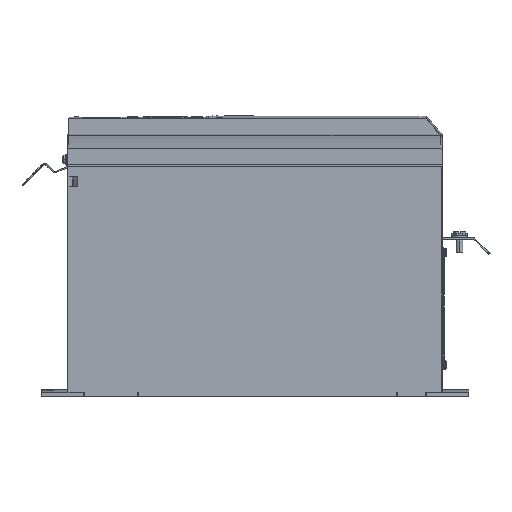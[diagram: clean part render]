
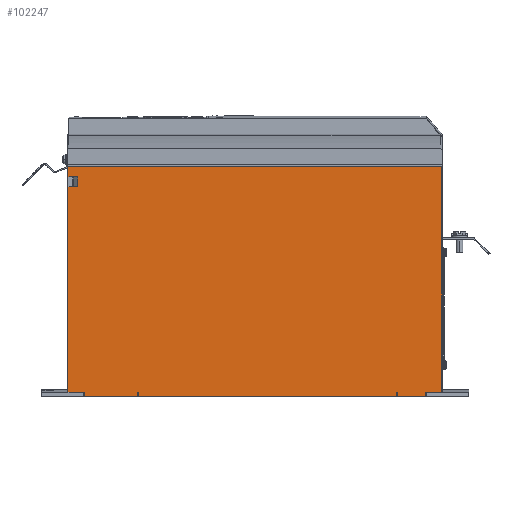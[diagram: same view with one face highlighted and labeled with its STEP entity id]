
A CAD part, left-side view. The second image highlights one B-rep face of the part: STEP entity #102247.
In plain terms, the highlighted planar face has unit normal (-1, 0, 0).
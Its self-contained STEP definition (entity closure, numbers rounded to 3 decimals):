
#3283=DIRECTION('',(0.,0.,1.));
#3284=VECTOR('',#3283,9.7);
#3285=CARTESIAN_POINT('',(-82.5,175.,205.2));
#3286=LINE('',#3285,#3284);
#3311=DIRECTION('',(0.,0.,1.));
#3312=VECTOR('',#3311,192.432);
#3313=CARTESIAN_POINT('',(-82.5,175.,3.768));
#3314=LINE('',#3313,#3312);
#30930=DIRECTION('',(0.,0.,-1.));
#30931=VECTOR('',#30930,211.132);
#30932=CARTESIAN_POINT('',(-82.5,-174.5,214.9));
#30933=LINE('',#30932,#30931);
#30937=DIRECTION('',(0.,1.,0.));
#30938=VECTOR('',#30937,14.95);
#30939=CARTESIAN_POINT('',(-82.5,-174.5,3.768));
#30940=LINE('',#30939,#30938);
#30944=DIRECTION('',(0.,0.,1.));
#30945=VECTOR('',#30944,3.768);
#30946=CARTESIAN_POINT('',(-82.5,-132.589,0.));
#30947=LINE('',#30946,#30945);
#30951=DIRECTION('',(0.,1.,0.));
#30952=VECTOR('',#30951,0.5);
#30953=CARTESIAN_POINT('',(-82.5,-132.589,3.768));
#30954=LINE('',#30953,#30952);
#30958=DIRECTION('',(0.,0.,-1.));
#30959=VECTOR('',#30958,3.775);
#30960=CARTESIAN_POINT('',(-82.5,-132.089,3.768));
#30961=LINE('',#30960,#30959);
#30965=DIRECTION('',(0.,1.,0.));
#30966=VECTOR('',#30965,241.178);
#30967=CARTESIAN_POINT('',(-82.5,-132.089,-0.007));
#30968=LINE('',#30967,#30966);
#30972=DIRECTION('',(0.,0.,1.));
#30973=VECTOR('',#30972,3.775);
#30974=CARTESIAN_POINT('',(-82.5,109.089,-0.007));
#30975=LINE('',#30974,#30973);
#30979=DIRECTION('',(0.,1.,0.));
#30980=VECTOR('',#30979,0.5);
#30981=CARTESIAN_POINT('',(-82.5,109.089,3.768));
#30982=LINE('',#30981,#30980);
#30986=DIRECTION('',(0.,0.,1.));
#30987=VECTOR('',#30986,3.768);
#30988=CARTESIAN_POINT('',(-82.5,109.589,0.));
#30989=LINE('',#30988,#30987);
#30993=DIRECTION('',(0.,1.,0.));
#30994=VECTOR('',#30993,15.844);
#30995=CARTESIAN_POINT('',(-82.5,159.156,3.768));
#30996=LINE('',#30995,#30994);
#31000=DIRECTION('',(0.,-1.,0.));
#31001=VECTOR('',#31000,9.);
#31002=CARTESIAN_POINT('',(-82.5,175.,196.2));
#31003=LINE('',#31002,#31001);
#31007=DIRECTION('',(0.,0.,1.));
#31008=VECTOR('',#31007,9.);
#31009=CARTESIAN_POINT('',(-82.5,166.,196.2));
#31010=LINE('',#31009,#31008);
#31014=DIRECTION('',(0.,-1.,0.));
#31015=VECTOR('',#31014,9.);
#31016=CARTESIAN_POINT('',(-82.5,175.,205.2));
#31017=LINE('',#31016,#31015);
#31021=DIRECTION('',(0.,1.,0.));
#31022=VECTOR('',#31021,349.5);
#31023=CARTESIAN_POINT('',(-82.5,-174.5,214.9));
#31024=LINE('',#31023,#31022);
#33354=DIRECTION('',(0.,-1.,0.));
#33355=VECTOR('',#33354,26.961);
#33356=CARTESIAN_POINT('',(-82.5,-132.589,0.));
#33357=LINE('',#33356,#33355);
#33404=DIRECTION('',(0.,0.,1.));
#33405=VECTOR('',#33404,3.768);
#33406=CARTESIAN_POINT('',(-82.5,-159.55,0.));
#33407=LINE('',#33406,#33405);
#33523=DIRECTION('',(0.,0.,1.));
#33524=VECTOR('',#33523,3.768);
#33525=CARTESIAN_POINT('',(-82.5,159.156,0.));
#33526=LINE('',#33525,#33524);
#33566=DIRECTION('',(0.,-1.,0.));
#33567=VECTOR('',#33566,49.567);
#33568=CARTESIAN_POINT('',(-82.5,159.156,0.));
#33569=LINE('',#33568,#33567);
#57094=CARTESIAN_POINT('',(-82.5,-174.5,214.9));
#57095=CARTESIAN_POINT('',(-82.5,-174.5,3.768));
#57096=VERTEX_POINT('',#57094);
#57097=VERTEX_POINT('',#57095);
#58738=CARTESIAN_POINT('',(-82.5,175.,3.768));
#58739=VERTEX_POINT('',#58738);
#58796=CARTESIAN_POINT('',(-82.5,-132.089,-0.007));
#58797=CARTESIAN_POINT('',(-82.5,109.089,-0.007));
#58798=VERTEX_POINT('',#58796);
#58799=VERTEX_POINT('',#58797);
#58805=CARTESIAN_POINT('',(-82.5,109.089,3.768));
#58807=VERTEX_POINT('',#58805);
#58809=CARTESIAN_POINT('',(-82.5,-132.089,3.768));
#58811=VERTEX_POINT('',#58809);
#58818=CARTESIAN_POINT('',(-82.5,-132.589,0.));
#58819=VERTEX_POINT('',#58818);
#58820=CARTESIAN_POINT('',(-82.5,-159.55,0.));
#58821=VERTEX_POINT('',#58820);
#58844=CARTESIAN_POINT('',(-82.5,-132.589,3.768));
#58845=VERTEX_POINT('',#58844);
#58846=CARTESIAN_POINT('',(-82.5,-159.55,3.768));
#58848=VERTEX_POINT('',#58846);
#58898=CARTESIAN_POINT('',(-82.5,109.589,0.));
#58899=VERTEX_POINT('',#58898);
#58900=CARTESIAN_POINT('',(-82.5,159.156,0.));
#58901=VERTEX_POINT('',#58900);
#58924=CARTESIAN_POINT('',(-82.5,109.589,3.768));
#58925=VERTEX_POINT('',#58924);
#58926=CARTESIAN_POINT('',(-82.5,159.156,3.768));
#58928=VERTEX_POINT('',#58926);
#58942=CARTESIAN_POINT('',(-82.5,175.,214.9));
#58943=VERTEX_POINT('',#58942);
#60023=CARTESIAN_POINT('',(-82.5,175.,196.2));
#60025=VERTEX_POINT('',#60023);
#60027=CARTESIAN_POINT('',(-82.5,175.,205.2));
#60029=VERTEX_POINT('',#60027);
#60031=CARTESIAN_POINT('',(-82.5,166.,196.2));
#60032=VERTEX_POINT('',#60031);
#60033=CARTESIAN_POINT('',(-82.5,166.,205.2));
#60034=VERTEX_POINT('',#60033);
#102202=CARTESIAN_POINT('',(-82.5,-175.,3.768));
#102203=DIRECTION('',(-1.,0.,0.));
#102204=DIRECTION('',(0.,0.,1.));
#102205=AXIS2_PLACEMENT_3D('',#102202,#102203,#102204);
#102206=PLANE('',#102205);
#102208=ORIENTED_EDGE('',*,*,#102207,.T.);
#102210=ORIENTED_EDGE('',*,*,#102209,.T.);
#102212=ORIENTED_EDGE('',*,*,#102211,.F.);
#102214=ORIENTED_EDGE('',*,*,#102213,.F.);
#102216=ORIENTED_EDGE('',*,*,#102215,.T.);
#102218=ORIENTED_EDGE('',*,*,#102217,.T.);
#102220=ORIENTED_EDGE('',*,*,#102219,.T.);
#102222=ORIENTED_EDGE('',*,*,#102221,.T.);
#102224=ORIENTED_EDGE('',*,*,#102223,.T.);
#102226=ORIENTED_EDGE('',*,*,#102225,.T.);
#102228=ORIENTED_EDGE('',*,*,#102227,.F.);
#102230=ORIENTED_EDGE('',*,*,#102229,.F.);
#102232=ORIENTED_EDGE('',*,*,#102231,.T.);
#102234=ORIENTED_EDGE('',*,*,#102233,.T.);
#102235=ORIENTED_EDGE('',*,*,#61763,.T.);
#102237=ORIENTED_EDGE('',*,*,#102236,.T.);
#102239=ORIENTED_EDGE('',*,*,#102238,.T.);
#102241=ORIENTED_EDGE('',*,*,#102240,.F.);
#102242=ORIENTED_EDGE('',*,*,#61755,.T.);
#102244=ORIENTED_EDGE('',*,*,#102243,.F.);
#102245=EDGE_LOOP('',(#102208,#102210,#102212,#102214,#102216,#102218,#102220,
#102222,#102224,#102226,#102228,#102230,#102232,#102234,#102235,#102237,#102239,
#102241,#102242,#102244));
#102246=FACE_OUTER_BOUND('',#102245,.F.);
#102247=ADVANCED_FACE('',(#102246),#102206,.T.);
#61755=EDGE_CURVE('',#60029,#58943,#3286,.T.);
#61763=EDGE_CURVE('',#58739,#60025,#3314,.T.);
#102207=EDGE_CURVE('',#57096,#57097,#30933,.T.);
#102209=EDGE_CURVE('',#57097,#58848,#30940,.T.);
#102211=EDGE_CURVE('',#58821,#58848,#33407,.T.);
#102213=EDGE_CURVE('',#58819,#58821,#33357,.T.);
#102215=EDGE_CURVE('',#58819,#58845,#30947,.T.);
#102217=EDGE_CURVE('',#58845,#58811,#30954,.T.);
#102219=EDGE_CURVE('',#58811,#58798,#30961,.T.);
#102221=EDGE_CURVE('',#58798,#58799,#30968,.T.);
#102223=EDGE_CURVE('',#58799,#58807,#30975,.T.);
#102225=EDGE_CURVE('',#58807,#58925,#30982,.T.);
#102227=EDGE_CURVE('',#58899,#58925,#30989,.T.);
#102229=EDGE_CURVE('',#58901,#58899,#33569,.T.);
#102231=EDGE_CURVE('',#58901,#58928,#33526,.T.);
#102233=EDGE_CURVE('',#58928,#58739,#30996,.T.);
#102236=EDGE_CURVE('',#60025,#60032,#31003,.T.);
#102238=EDGE_CURVE('',#60032,#60034,#31010,.T.);
#102240=EDGE_CURVE('',#60029,#60034,#31017,.T.);
#102243=EDGE_CURVE('',#57096,#58943,#31024,.T.);
